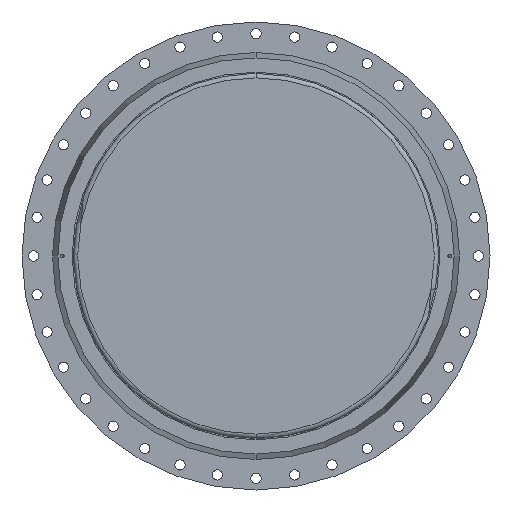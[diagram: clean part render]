
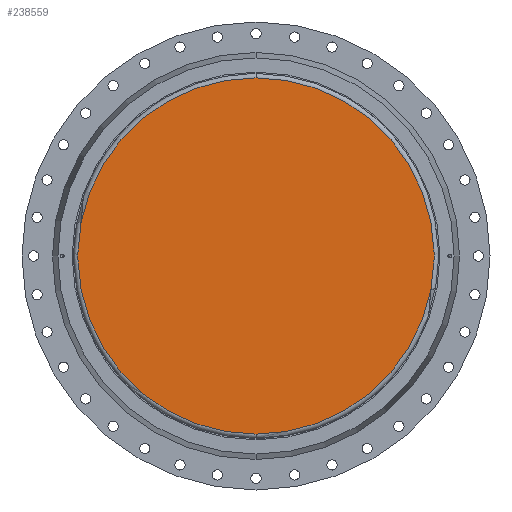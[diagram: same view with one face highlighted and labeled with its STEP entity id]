
A CAD part, front view. The second image highlights one B-rep face of the part: STEP entity #238559.
In plain terms, the highlighted planar face has unit normal (0, -1, 0).
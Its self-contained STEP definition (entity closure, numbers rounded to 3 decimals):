
#868 = CARTESIAN_POINT ( 'NONE',  ( 625., 0., 13.785 ) ) ;
#1713 = CARTESIAN_POINT ( 'NONE',  ( 624.907, 0., 13.859 ) ) ;
#2994 = CARTESIAN_POINT ( 'NONE',  ( 0., 0., 0. ) ) ;
#7854 = CARTESIAN_POINT ( 'NONE',  ( 624.855, 0., -13.9 ) ) ;
#8523 = DIRECTION ( 'NONE',  ( 0., 0., -1. ) ) ;
#8562 = B_SPLINE_CURVE_WITH_KNOTS ( 'NONE', 3,
 ( #222708, #84836, #7854, #144827, #27504, #164478, #47223 ),
 .UNSPECIFIED., .F., .F.,
 ( 4, 3, 4 ),
 ( 0., 0., 0. ),
 .UNSPECIFIED. ) ;
#10421 = DIRECTION ( 'NONE',  ( 0., 0., 1. ) ) ;
#10467 = LINE ( 'NONE', #17170, #212694 ) ;
#11017 = CARTESIAN_POINT ( 'NONE',  ( -624.845, 0., -13.908 ) ) ;
#12124 = CARTESIAN_POINT ( 'NONE',  ( -624.953, 0., 13.822 ) ) ;
#14899 = ORIENTED_EDGE ( 'NONE', *, *, #250273, .F. ) ;
#17170 = CARTESIAN_POINT ( 'NONE',  ( -625., 0., 13.91 ) ) ;
#20250 = EDGE_CURVE ( 'NONE', #157243, #178612, #92503, .T. ) ;
#21452 = CARTESIAN_POINT ( 'NONE',  ( 624.855, 0., 13.9 ) ) ;
#22709 = DIRECTION ( 'NONE',  ( 0., 0., 1. ) ) ;
#25793 = ORIENTED_EDGE ( 'NONE', *, *, #123141, .T. ) ;
#27504 = CARTESIAN_POINT ( 'NONE',  ( 624.907, 0., -13.859 ) ) ;
#28546 = VERTEX_POINT ( 'NONE', #196358 ) ;
#30303 = CARTESIAN_POINT ( 'NONE',  ( -625., 0., 13.785 ) ) ;
#34238 = DIRECTION ( 'NONE',  ( 0., 1., 0. ) ) ;
#40584 = CARTESIAN_POINT ( 'NONE',  ( 625., 0., 0. ) ) ;
#41097 = CARTESIAN_POINT ( 'NONE',  ( 624.845, 0., 13.908 ) ) ;
#42932 = CARTESIAN_POINT ( 'NONE',  ( -624.845, 0., -13.908 ) ) ;
#43043 = B_SPLINE_CURVE_WITH_KNOTS ( 'NONE', 3,
 ( #69204, #201260, #225861, #108622, #245466, #128337, #11017 ),
 .UNSPECIFIED., .F., .F.,
 ( 4, 3, 4 ),
 ( 0., 0., 0. ),
 .UNSPECIFIED. ) ;
#46193 = DIRECTION ( 'NONE',  ( 0., 0., 1. ) ) ;
#47223 = CARTESIAN_POINT ( 'NONE',  ( 625., 0., -13.785 ) ) ;
#48030 = EDGE_CURVE ( 'NONE', #241488, #90547, #120754, .T. ) ;
#49334 = CARTESIAN_POINT ( 'NONE',  ( 624.845, 0., -13.908 ) ) ;
#50021 = VECTOR ( 'NONE', #164450, 1000. ) ;
#53606 = CARTESIAN_POINT ( 'NONE',  ( 625., 0., 13.785 ) ) ;
#54219 = VERTEX_POINT ( 'NONE', #243814 ) ;
#56922 = EDGE_LOOP ( 'NONE', ( #93861, #198354, #14899, #203272, #25793, #79966, #146881, #212458, #142406, #146156, #232762, #222747 ) ) ;
#58723 = AXIS2_PLACEMENT_3D ( 'NONE', #2994, #139992, #22709 ) ;
#60921 = CARTESIAN_POINT ( 'NONE',  ( 625., 0., 13.91 ) ) ;
#63328 = VERTEX_POINT ( 'NONE', #49334 ) ;
#68410 = LINE ( 'NONE', #206252, #172654 ) ;
#69204 = CARTESIAN_POINT ( 'NONE',  ( -625., 0., -13.785 ) ) ;
#71527 = VERTEX_POINT ( 'NONE', #53606 ) ;
#71691 = VERTEX_POINT ( 'NONE', #40584 ) ;
#72321 = EDGE_CURVE ( 'NONE', #184544, #71691, #102011, .T. ) ;
#76226 = VERTEX_POINT ( 'NONE', #100522 ) ;
#79966 = ORIENTED_EDGE ( 'NONE', *, *, #48030, .F. ) ;
#84836 = CARTESIAN_POINT ( 'NONE',  ( 624.85, 0., -13.904 ) ) ;
#87413 = B_SPLINE_CURVE_WITH_KNOTS ( 'NONE', 3,
 ( #868, #196966, #1713, #138722, #21452, #158385, #41097 ),
 .UNSPECIFIED., .F., .F.,
 ( 4, 3, 4 ),
 ( 0., 0., 0. ),
 .UNSPECIFIED. ) ;
#88129 = CARTESIAN_POINT ( 'NONE',  ( 0., 0., -625. ) ) ;
#89956 = CARTESIAN_POINT ( 'NONE',  ( -624.85, 0., 13.904 ) ) ;
#89982 = LINE ( 'NONE', #60921, #142138 ) ;
#90547 = VERTEX_POINT ( 'NONE', #42932 ) ;
#92503 = CIRCLE ( 'NONE', #248277, 625. ) ;
#93861 = ORIENTED_EDGE ( 'NONE', *, *, #20250, .F. ) ;
#94866 = DIRECTION ( 'NONE',  ( 0., 1., 0. ) ) ;
#100522 = CARTESIAN_POINT ( 'NONE',  ( -625., 0., 0. ) ) ;
#102011 = LINE ( 'NONE', #162780, #50021 ) ;
#103918 = AXIS2_PLACEMENT_3D ( 'NONE', #242984, #125827, #8523 ) ;
#107969 = EDGE_CURVE ( 'NONE', #71691, #71527, #89982, .T. ) ;
#108622 = CARTESIAN_POINT ( 'NONE',  ( -624.86, 0., -13.896 ) ) ;
#109735 = CARTESIAN_POINT ( 'NONE',  ( -624.855, 0., 13.9 ) ) ;
#111667 = EDGE_CURVE ( 'NONE', #178612, #54219, #170449, .T. ) ;
#115812 = CARTESIAN_POINT ( 'NONE',  ( 625., 0., -13.785 ) ) ;
#118877 = EDGE_CURVE ( 'NONE', #28546, #76226, #10467, .T. ) ;
#120754 = CIRCLE ( 'NONE', #210008, 625. ) ;
#121359 = CARTESIAN_POINT ( 'NONE',  ( -624.845, 0., 13.908 ) ) ;
#123141 = EDGE_CURVE ( 'NONE', #28546, #90547, #43043, .T. ) ;
#125827 = DIRECTION ( 'NONE',  ( 0., -1., 0. ) ) ;
#127779 = DIRECTION ( 'NONE',  ( 0., 1., 0. ) ) ;
#128337 = CARTESIAN_POINT ( 'NONE',  ( -624.85, 0., -13.904 ) ) ;
#129445 = CARTESIAN_POINT ( 'NONE',  ( -624.907, 0., 13.859 ) ) ;
#130520 = EDGE_CURVE ( 'NONE', #71527, #54219, #87413, .T. ) ;
#135252 = DIRECTION ( 'NONE',  ( 0., 0., 1. ) ) ;
#138722 = CARTESIAN_POINT ( 'NONE',  ( 624.86, 0., 13.896 ) ) ;
#139992 = DIRECTION ( 'NONE',  ( 0., 1., 0. ) ) ;
#142138 = VECTOR ( 'NONE', #158495, 1000. ) ;
#142406 = ORIENTED_EDGE ( 'NONE', *, *, #72321, .T. ) ;
#144827 = CARTESIAN_POINT ( 'NONE',  ( 624.86, 0., -13.896 ) ) ;
#146156 = ORIENTED_EDGE ( 'NONE', *, *, #107969, .T. ) ;
#146881 = ORIENTED_EDGE ( 'NONE', *, *, #215246, .F. ) ;
#149182 = CARTESIAN_POINT ( 'NONE',  ( -625., 0., 13.785 ) ) ;
#151015 = CARTESIAN_POINT ( 'NONE',  ( 0., 0., 625. ) ) ;
#151613 = CARTESIAN_POINT ( 'NONE',  ( 0., 0., 0. ) ) ;
#157243 = VERTEX_POINT ( 'NONE', #121359 ) ;
#158385 = CARTESIAN_POINT ( 'NONE',  ( 624.85, 0., 13.904 ) ) ;
#158495 = DIRECTION ( 'NONE',  ( 0., 0., 1. ) ) ;
#161049 = B_SPLINE_CURVE_WITH_KNOTS ( 'NONE', 3,
 ( #206520, #89956, #109735, #246594, #129445, #12124, #149182 ),
 .UNSPECIFIED., .F., .F.,
 ( 4, 3, 4 ),
 ( 0., 0., 0. ),
 .UNSPECIFIED. ) ;
#161929 = CIRCLE ( 'NONE', #224493, 625. ) ;
#162780 = CARTESIAN_POINT ( 'NONE',  ( 625., 0., 13.91 ) ) ;
#164303 = PLANE ( 'NONE',  #103918 ) ;
#164450 = DIRECTION ( 'NONE',  ( 0., 0., 1. ) ) ;
#164478 = CARTESIAN_POINT ( 'NONE',  ( 624.953, 0., -13.822 ) ) ;
#170449 = CIRCLE ( 'NONE', #58723, 625. ) ;
#171280 = DIRECTION ( 'NONE',  ( 0., 0., 1. ) ) ;
#172654 = VECTOR ( 'NONE', #46193, 1000. ) ;
#178612 = VERTEX_POINT ( 'NONE', #151015 ) ;
#184544 = VERTEX_POINT ( 'NONE', #115812 ) ;
#196358 = CARTESIAN_POINT ( 'NONE',  ( -625., 0., -13.785 ) ) ;
#196966 = CARTESIAN_POINT ( 'NONE',  ( 624.953, 0., 13.822 ) ) ;
#198354 = ORIENTED_EDGE ( 'NONE', *, *, #206378, .T. ) ;
#201260 = CARTESIAN_POINT ( 'NONE',  ( -624.953, 0., -13.822 ) ) ;
#203272 = ORIENTED_EDGE ( 'NONE', *, *, #118877, .F. ) ;
#206252 = CARTESIAN_POINT ( 'NONE',  ( -625., 0., 13.91 ) ) ;
#206378 = EDGE_CURVE ( 'NONE', #157243, #223080, #161049, .T. ) ;
#206520 = CARTESIAN_POINT ( 'NONE',  ( -624.845, 0., 13.908 ) ) ;
#210008 = AXIS2_PLACEMENT_3D ( 'NONE', #212205, #94866, #231880 ) ;
#212205 = CARTESIAN_POINT ( 'NONE',  ( 0., 0., 0. ) ) ;
#212458 = ORIENTED_EDGE ( 'NONE', *, *, #226476, .T. ) ;
#212694 = VECTOR ( 'NONE', #135252, 1000. ) ;
#215246 = EDGE_CURVE ( 'NONE', #63328, #241488, #161929, .T. ) ;
#222708 = CARTESIAN_POINT ( 'NONE',  ( 624.845, 0., -13.908 ) ) ;
#222747 = ORIENTED_EDGE ( 'NONE', *, *, #111667, .F. ) ;
#223080 = VERTEX_POINT ( 'NONE', #30303 ) ;
#224493 = AXIS2_PLACEMENT_3D ( 'NONE', #244899, #127779, #10421 ) ;
#225861 = CARTESIAN_POINT ( 'NONE',  ( -624.907, 0., -13.859 ) ) ;
#226476 = EDGE_CURVE ( 'NONE', #63328, #184544, #8562, .T. ) ;
#231681 = FACE_OUTER_BOUND ( 'NONE', #56922, .T. ) ;
#231880 = DIRECTION ( 'NONE',  ( 0., 0., 1. ) ) ;
#232762 = ORIENTED_EDGE ( 'NONE', *, *, #130520, .T. ) ;
#238559 = ADVANCED_FACE ( 'NONE', ( #231681 ), #164303, .T. ) ;
#241488 = VERTEX_POINT ( 'NONE', #88129 ) ;
#242984 = CARTESIAN_POINT ( 'NONE',  ( -150., 0., 8. ) ) ;
#243814 = CARTESIAN_POINT ( 'NONE',  ( 624.845, 0., 13.908 ) ) ;
#244899 = CARTESIAN_POINT ( 'NONE',  ( 0., 0., 0. ) ) ;
#245466 = CARTESIAN_POINT ( 'NONE',  ( -624.855, 0., -13.9 ) ) ;
#246594 = CARTESIAN_POINT ( 'NONE',  ( -624.86, 0., 13.896 ) ) ;
#248277 = AXIS2_PLACEMENT_3D ( 'NONE', #151613, #34238, #171280 ) ;
#250273 = EDGE_CURVE ( 'NONE', #76226, #223080, #68410, .T. ) ;
